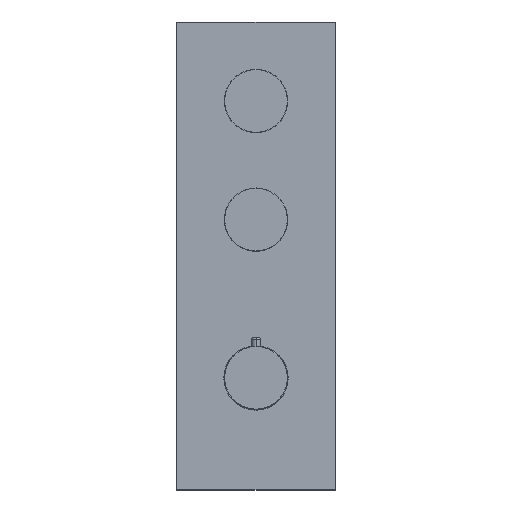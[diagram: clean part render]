
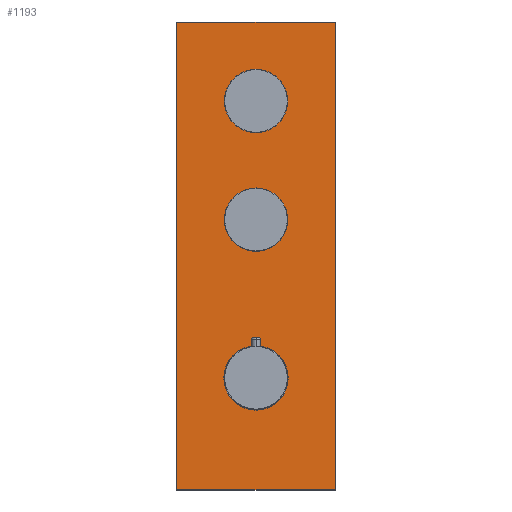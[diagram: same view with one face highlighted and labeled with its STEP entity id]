
A CAD part, top view. The second image highlights one B-rep face of the part: STEP entity #1193.
In plain terms, the highlighted planar face has unit normal (0, 0, 1).
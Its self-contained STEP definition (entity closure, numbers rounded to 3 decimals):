
#283=DIRECTION('',(1.,0.,0.));
#284=VECTOR('',#283,120.);
#285=CARTESIAN_POINT('',(-60.,-85.,2.));
#286=LINE('',#285,#284);
#287=DIRECTION('',(0.,-1.,0.));
#288=VECTOR('',#287,355.);
#289=CARTESIAN_POINT('',(-60.,270.,2.));
#290=LINE('',#289,#288);
#291=DIRECTION('',(-1.,0.,0.));
#292=VECTOR('',#291,120.);
#293=CARTESIAN_POINT('',(60.,270.,2.));
#294=LINE('',#293,#292);
#295=DIRECTION('',(0.,1.,0.));
#296=VECTOR('',#295,355.);
#297=CARTESIAN_POINT('',(60.,-85.,2.));
#298=LINE('',#297,#296);
#299=CARTESIAN_POINT('',(0.,0.,2.));
#300=DIRECTION('',(0.,0.,1.));
#301=DIRECTION('',(1.,0.,0.));
#302=AXIS2_PLACEMENT_3D('',#299,#300,#301);
#304=CARTESIAN_POINT('',(0.,0.,2.));
#305=DIRECTION('',(0.,0.,1.));
#306=DIRECTION('',(-1.,0.,0.));
#307=AXIS2_PLACEMENT_3D('',#304,#305,#306);
#309=CARTESIAN_POINT('',(0.,120.,2.));
#310=DIRECTION('',(0.,0.,1.));
#311=DIRECTION('',(1.,0.,0.));
#312=AXIS2_PLACEMENT_3D('',#309,#310,#311);
#314=CARTESIAN_POINT('',(0.,120.,2.));
#315=DIRECTION('',(0.,0.,1.));
#316=DIRECTION('',(-1.,0.,0.));
#317=AXIS2_PLACEMENT_3D('',#314,#315,#316);
#319=CARTESIAN_POINT('',(0.,210.,2.));
#320=DIRECTION('',(0.,0.,1.));
#321=DIRECTION('',(1.,0.,0.));
#322=AXIS2_PLACEMENT_3D('',#319,#320,#321);
#324=CARTESIAN_POINT('',(0.,210.,2.));
#325=DIRECTION('',(0.,0.,1.));
#326=DIRECTION('',(-1.,0.,0.));
#327=AXIS2_PLACEMENT_3D('',#324,#325,#326);
#771=CARTESIAN_POINT('',(-60.,-85.,2.));
#772=CARTESIAN_POINT('',(60.,-85.,2.));
#773=VERTEX_POINT('',#771);
#774=VERTEX_POINT('',#772);
#775=CARTESIAN_POINT('',(60.,270.,2.));
#776=VERTEX_POINT('',#775);
#777=CARTESIAN_POINT('',(-60.,270.,2.));
#778=VERTEX_POINT('',#777);
#779=CARTESIAN_POINT('',(24.4,0.,2.));
#780=CARTESIAN_POINT('',(-24.4,0.,2.));
#781=VERTEX_POINT('',#779);
#782=VERTEX_POINT('',#780);
#803=CARTESIAN_POINT('',(20.5,120.,2.));
#804=CARTESIAN_POINT('',(-20.5,120.,2.));
#805=VERTEX_POINT('',#803);
#806=VERTEX_POINT('',#804);
#845=CARTESIAN_POINT('',(20.5,210.,2.));
#846=CARTESIAN_POINT('',(-20.5,210.,2.));
#847=VERTEX_POINT('',#845);
#848=VERTEX_POINT('',#846);
#1161=CARTESIAN_POINT('',(0.,0.,2.));
#1162=DIRECTION('',(0.,0.,1.));
#1163=DIRECTION('',(1.,0.,0.));
#1164=AXIS2_PLACEMENT_3D('',#1161,#1162,#1163);
#1165=PLANE('',#1164);
#1167=ORIENTED_EDGE('',*,*,#1166,.F.);
#1169=ORIENTED_EDGE('',*,*,#1168,.F.);
#1171=ORIENTED_EDGE('',*,*,#1170,.F.);
#1173=ORIENTED_EDGE('',*,*,#1172,.F.);
#1174=EDGE_LOOP('',(#1167,#1169,#1171,#1173));
#1175=FACE_OUTER_BOUND('',#1174,.F.);
#1177=ORIENTED_EDGE('',*,*,#1176,.T.);
#1179=ORIENTED_EDGE('',*,*,#1178,.T.);
#1180=EDGE_LOOP('',(#1177,#1179));
#1181=FACE_BOUND('',#1180,.F.);
#1183=ORIENTED_EDGE('',*,*,#1182,.T.);
#1185=ORIENTED_EDGE('',*,*,#1184,.T.);
#1186=EDGE_LOOP('',(#1183,#1185));
#1187=FACE_BOUND('',#1186,.F.);
#1188=ORIENTED_EDGE('',*,*,#1151,.T.);
#1190=ORIENTED_EDGE('',*,*,#1189,.T.);
#1191=EDGE_LOOP('',(#1188,#1190));
#1192=FACE_BOUND('',#1191,.F.);
#1193=ADVANCED_FACE('',(#1175,#1181,#1187,#1192),#1165,.T.);
#303=CIRCLE('',#302,24.4);
#308=CIRCLE('',#307,24.4);
#313=CIRCLE('',#312,20.5);
#318=CIRCLE('',#317,20.5);
#323=CIRCLE('',#322,20.5);
#328=CIRCLE('',#327,20.5);
#1151=EDGE_CURVE('',#847,#848,#323,.T.);
#1166=EDGE_CURVE('',#773,#774,#286,.T.);
#1168=EDGE_CURVE('',#778,#773,#290,.T.);
#1170=EDGE_CURVE('',#776,#778,#294,.T.);
#1172=EDGE_CURVE('',#774,#776,#298,.T.);
#1176=EDGE_CURVE('',#781,#782,#303,.T.);
#1178=EDGE_CURVE('',#782,#781,#308,.T.);
#1182=EDGE_CURVE('',#805,#806,#313,.T.);
#1184=EDGE_CURVE('',#806,#805,#318,.T.);
#1189=EDGE_CURVE('',#848,#847,#328,.T.);
